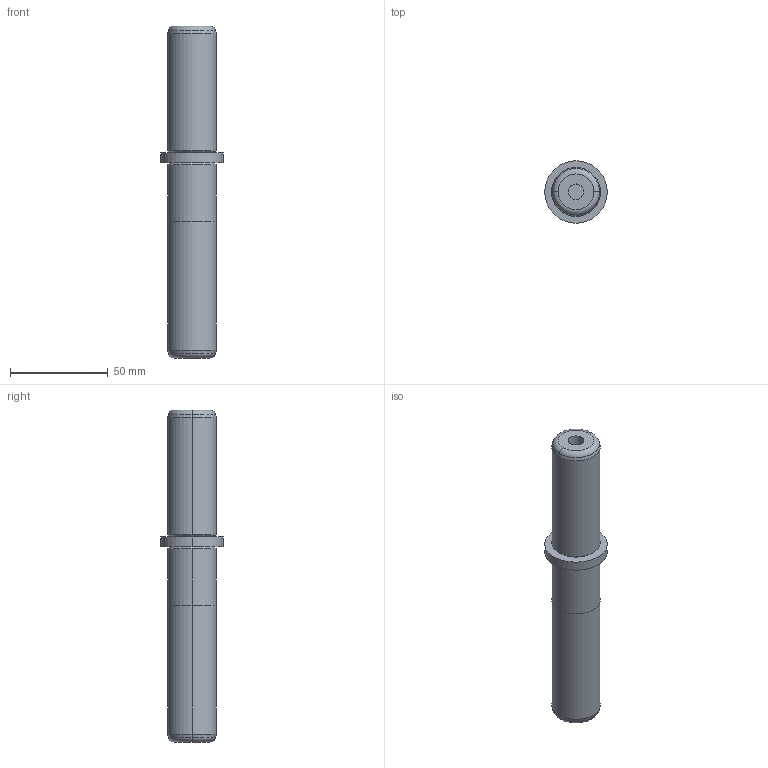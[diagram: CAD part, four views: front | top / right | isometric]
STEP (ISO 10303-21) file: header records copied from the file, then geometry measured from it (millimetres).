
FILE_DESCRIPTION(/* description */ (''),/* implementation_level */ '2;1');
FILE_NAME(/* name */ '3d_sgpwh25-100-70-b30_05315_r00.stp',/* time_stamp */ '2011-01-10T14:11:01+09:00',/* author */ ('MISUMI'),/* organization */ (''),/* preprocessor_version */ 'ST-DEVELOPER v11',/* originating_system */ 'UGS - NX 5.0',/* authorisation */ '');
FILE_SCHEMA (('CONFIG_CONTROL_DESIGN'));
Length unit declared in the file: millimetre
Products named in the file (1): 3d_sgpwh25-100-70-b30_05315_r00
Bounding box: 32 x 32 x 170 mm (x, y, z)
Volume: 81957.5 mm3; surface area: 16264.7 mm2
Topology: 1 solids, 1 shells, 30 faces, 58 edges, 34 vertices
Faces by surface type: cylinder 12, cone 8, plane 6, torus 4
Entity records: 854 total; most frequent: DIRECTION 158, CARTESIAN_POINT 123, ORIENTED_EDGE 116, AXIS2_PLACEMENT_3D 69, EDGE_CURVE 58, CIRCLE 38, EDGE_LOOP 34, VERTEX_POINT 34
